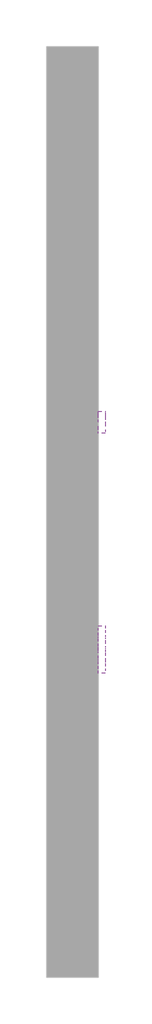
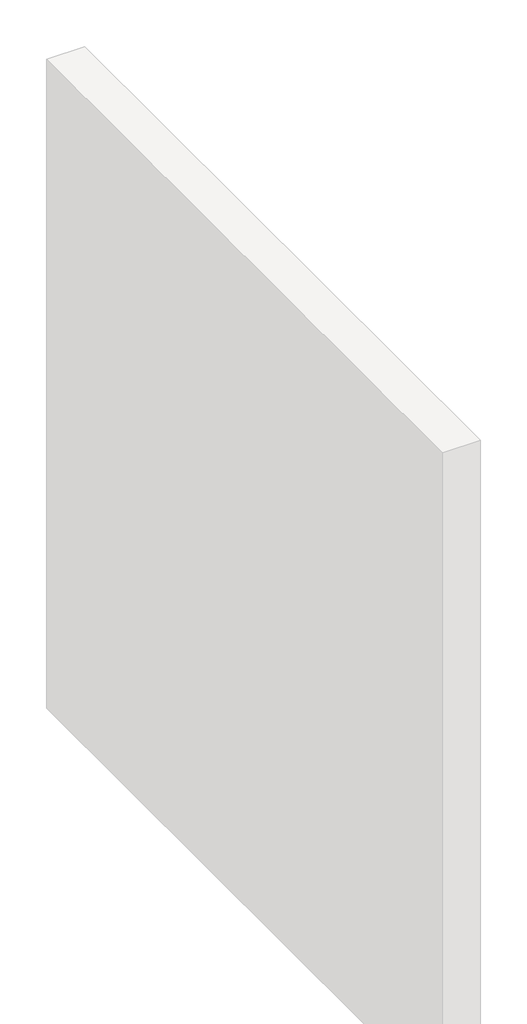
# One storey, part 5 of 12: 2 proxies.
"""IFC4 building model written with IfcOpenShell, lengths in millimetres."""

from ifc_helpers import new_model, si_unit, frame, origin, place, context, project, spatial, polyline, outline, extrude, element, save

model = new_model("IFC4")

# Units and contexts
model_context = context("Model", 3, world=origin())
ifc_project = project(units=[si_unit("LENGTHUNIT", "METRE", prefix="MILLI")], contexts=[model_context])

# Site, building, storey
site = spatial("IfcSite", under=ifc_project)
building = spatial("IfcBuilding", under=site)
storey = spatial("IfcBuildingStorey", under=building, Name="PORTOBELLO - SHOWROOM", Elevation=0.0)

# Proxies
placement = place(None, origin())
element("IfcBuildingElementProxy", 1, Name="10mm Arial", ObjectType="10mm Arial", at=placement, inside=storey, context=model_context, shape_type="SweptSolid", body=[
    extrude(outline(polyline([(1893.8323356, 2517.8467461), (1893.8323356, 2618.3030562), (1915.4392714, 2618.3030562), (1935.9916122, 2547.4980349), (1940.136416, 2532.7091787), (1944.6245764, 2548.7243082), (1964.8335607, 2618.3030562), (1986.4404965, 2618.3030562), (1986.4404965, 2517.8467461), (1973.8834577, 2517.8467461), (1973.8834577, 2605.7460174), (1948.6467529, 2517.8467461), (1931.6260792, 2517.8467461), (1906.3893744, 2605.7460174), (1906.3893744, 2517.8467461), (1893.8323356, 2517.8467461)])), frame((31348.9976597, 0.0, 0.0), z_axis=(1.0, 0.0, 0.0), x_axis=(0.0, 1.0, 0.0)), (0.0, 0.0, 1.0), 20.0),
    extrude(outline(polyline([(2003.7064248, 2554.7330474), (2006.4226202, 2572.5201419), (2014.5712064, 2585.0219984), (2024.6389103, 2591.1472336), (2036.693177, 2593.1889787), (2049.8848123, 2590.7027095), (2060.4215657, 2583.2439021), (2067.3285502, 2571.4011675), (2069.6308784, 2555.763117), (2065.5596509, 2533.4204172), (2053.701588, 2520.7775393), (2036.693177, 2516.2771162), (2023.3421263, 2518.7541883), (2012.8176356, 2526.1854046), (2005.9842275, 2538.2764595), (2003.7064248, 2554.7330474)]), holes=[polyline([(2016.2634636, 2554.7575729), (2017.7165975, 2543.3930849), (2022.0759991, 2535.2966154), (2028.6365614, 2530.4497701), (2036.693177, 2528.834155), (2044.7130045, 2530.4589671), (2051.2613041, 2535.3334036), (2055.6207057, 2543.537172), (2057.0738396, 2555.1499804), (2055.6115087, 2566.1833745), (2051.2245159, 2574.1694795), (2044.6670193, 2579.0163248), (2036.693177, 2580.6319399), (2028.6365614, 2579.0224562), (2022.0759991, 2574.194005), (2017.7165975, 2566.1159295), (2016.2634636, 2554.7575729)])]), frame((31348.9976597, 0.0, 0.0), z_axis=(1.0, 0.0, 0.0), x_axis=(0.0, 1.0, 0.0)), (0.0, 0.0, 1.0), 20.0),
    extrude(outline(polyline([(2079.0486574, 2539.8215639), (2091.6056962, 2541.3911937), (2097.4182317, 2532.0715165), (2110.7355599, 2528.834155), (2123.5378534, 2531.8017364), (2127.7071827, 2538.7669688), (2123.5133279, 2544.4078261), (2110.5884071, 2547.9885442), (2091.6792726, 2554.1321735), (2083.4264532, 2561.3058724), (2080.6182873, 2571.43489), (2082.8746302, 2580.7913554), (2089.0305222, 2587.9405289), (2097.0135615, 2591.656137), (2107.8170295, 2593.1889787), (2123.096395, 2590.7241693), (2132.8084797, 2584.0532425), (2137.1249617, 2572.7837907), (2124.567923, 2571.2141608), (2119.8467707, 2578.1426051), (2108.7980481, 2580.6319399), (2096.7805696, 2578.2529697), (2093.175326, 2572.7102143), (2094.6713795, 2569.0559198), (2099.3557436, 2566.2845421), (2110.1714742, 2563.6112663), (2128.6023622, 2557.7006289), (2137.1617499, 2551.0051765), (2140.2642214, 2540.091344), (2136.6221897, 2528.0738655), (2126.1130273, 2519.3550622), (2110.5638817, 2516.2771162), (2097.9026097, 2517.7609069), (2088.6626402, 2522.2122791), (2082.4944854, 2529.5821817), (2079.0486574, 2539.8215639)])), frame((31348.9976597, 0.0, 0.0), z_axis=(1.0, 0.0, 0.0), x_axis=(0.0, 1.0, 0.0)), (0.0, 0.0, 1.0), 20.0),
    extrude(outline(polyline([(2242.2901614, 2557.0874922), (2242.2901614, 2569.644531), (2283.1005374, 2569.644531), (2283.1005374, 2532.096042), (2262.9528668, 2520.2502418), (2241.6524993, 2516.2771162), (2227.5656846, 2517.8559431), (2214.8339018, 2522.5924238), (2204.2572945, 2530.3210114), (2196.6360058, 2540.8761589), (2192.0282838, 2553.537431), (2190.4923765, 2567.5843918), (2192.0221525, 2581.7325202), (2196.6114804, 2594.8934986), (2204.0702878, 2605.9330241), (2214.2085025, 2613.716794), (2226.5570748, 2618.333713), (2240.6469552, 2619.872686), (2260.2918537, 2616.3042307), (2274.0629031, 2606.3714168), (2281.6535349, 2589.7554134), (2270.0775148, 2586.4935264), (2264.3508184, 2598.1063347), (2254.5651573, 2604.801787), (2240.4507514, 2607.3156473), (2224.3743083, 2604.6055832), (2213.4359503, 2597.493198), (2206.9734899, 2587.8179015), (2203.0494153, 2568.0994266), (2207.7705675, 2546.2104479), (2221.5048287, 2533.1138489), (2240.6469552, 2528.834155), (2257.8270444, 2532.0592538), (2270.5434987, 2538.9386471), (2270.5434987, 2557.0874922), (2242.2901614, 2557.0874922)])), frame((31348.9976597, 0.0, 0.0), z_axis=(1.0, 0.0, 0.0), x_axis=(0.0, 1.0, 0.0)), (0.0, 0.0, 1.0), 20.0),
    extrude(outline(polyline([(2349.024991, 2527.2645251), (2336.8480969, 2518.7541883), (2323.3958786, 2516.2771162), (2312.9020447, 2517.7670383), (2305.1611944, 2522.2368045), (2300.3879255, 2529.0242273), (2298.7968359, 2537.4671191), (2301.2003316, 2547.399933), (2307.5156392, 2554.6104201), (2316.3080189, 2558.7306984), (2327.1728004, 2560.6191594), (2348.9514146, 2564.9356414), (2349.024991, 2567.7315446), (2345.5669002, 2577.0021709), (2331.6854862, 2580.6319399), (2318.9812947, 2578.2161815), (2312.9235045, 2569.644531), (2300.3664657, 2571.2141608), (2305.7988565, 2583.476894), (2316.7372145, 2590.6628556), (2333.304167, 2593.1889787), (2348.5222189, 2590.9571612), (2357.1183948, 2585.3530922), (2360.9688931, 2576.8304926), (2361.5820297, 2565.8430837), (2361.5820297, 2550.2203616), (2362.2196918, 2528.4049593), (2364.7212894, 2517.8467461), (2352.1642506, 2517.8467461), (2349.024991, 2527.2645251)]), holes=[polyline([(2349.024991, 2552.3786027), (2328.7669558, 2548.5281044), (2317.9634878, 2546.4924907), (2313.0706573, 2543.1815528), (2311.3538746, 2538.3500359), (2315.0940083, 2531.5564817), (2326.0691545, 2528.834155), (2338.773346, 2531.8385246), (2346.9648518, 2539.1103254), (2348.9514146, 2548.82241), (2349.024991, 2552.3786027)])]), frame((31348.9976597, 0.0, 0.0), z_axis=(1.0, 0.0, 0.0), x_axis=(0.0, 1.0, 0.0)), (0.0, 0.0, 1.0), 20.0),
    extrude(outline(polyline([(2378.847958, 2517.8467461), (2378.847958, 2591.6193488), (2389.835367, 2591.6193488), (2389.835367, 2580.7055163), (2397.6344653, 2590.7609575), (2405.4826145, 2593.1889787), (2418.0887042, 2589.313955), (2413.8948494, 2578.0567659), (2405.0656816, 2580.6319399), (2397.965559, 2578.1548678), (2393.4406105, 2571.2877372), (2391.4049968, 2556.6215083), (2391.4049968, 2517.8467461), (2378.847958, 2517.8467461)])), frame((31348.9976597, 0.0, 0.0), z_axis=(1.0, 0.0, 0.0), x_axis=(0.0, 1.0, 0.0)), (0.0, 0.0, 1.0), 20.0),
    extrude(outline(polyline([(2452.6205608, 2528.3191202), (2454.1901906, 2517.4788641), (2444.796937, 2516.2771162), (2434.275512, 2518.3617808), (2429.0270622, 2523.8309598), (2427.5064833, 2538.0802558), (2427.5064833, 2579.06231), (2418.0887042, 2579.06231), (2418.0887042, 2589.313955), (2418.0887042, 2591.6193488), (2427.5064833, 2591.6193488), (2427.5064833, 2609.5474647), (2440.063522, 2616.9296301), (2440.063522, 2591.6193488), (2452.6205608, 2591.6193488), (2452.6205608, 2579.06231), (2440.063522, 2579.06231), (2440.063522, 2538.4481378), (2440.7257096, 2531.9734147), (2442.8716879, 2529.6802836), (2447.1513818, 2528.834155), (2452.6205608, 2528.3191202)])), frame((31348.9976597, 0.0, 0.0), z_axis=(1.0, 0.0, 0.0), x_axis=(0.0, 1.0, 0.0)), (0.0, 0.0, 1.0), 20.0),
    extrude(outline(polyline([(2516.8282317, 2539.8215639), (2529.1400158, 2538.2519341), (2524.7039721, 2528.9751764), (2517.6253093, 2522.0406008), (2508.0634432, 2517.7179874), (2496.177789, 2516.2771162), (2481.4441151, 2518.7633854), (2470.1072183, 2526.2221928), (2462.8783371, 2538.1691606), (2460.46871, 2554.1199108), (2462.9028626, 2570.6071555), (2470.2053202, 2582.9373337), (2481.3889328, 2590.6260674), (2495.4665505, 2593.1889787), (2509.1057755, 2590.6321988), (2520.0042796, 2582.9618592), (2527.1503873, 2570.6562065), (2529.5324233, 2554.1934872), (2529.4588469, 2550.8089728), (2473.0257488, 2550.8089728), (2475.1993183, 2541.4095878), (2480.2484986, 2534.4995377), (2487.5356278, 2530.2505007), (2496.4230437, 2528.834155), (2508.7348278, 2531.4583799), (2516.8282317, 2539.8215639)]), holes=[polyline([(2473.0257488, 2563.3660116), (2516.9753845, 2563.3660116), (2511.9476639, 2574.745828), (2504.6268122, 2579.1604119), (2495.4174996, 2580.6319399), (2479.954193, 2575.9353131), (2475.0889537, 2570.4446743), (2473.0257488, 2563.3660116)])]), frame((31348.9976597, 0.0, 0.0), z_axis=(1.0, 0.0, 0.0), x_axis=(0.0, 1.0, 0.0)), (0.0, 0.0, 1.0), 20.0),
    extrude(outline(polyline([(2542.089462, 2517.8467461), (2542.089462, 2591.6193488), (2554.6465008, 2591.6193488), (2554.6465008, 2581.318653), (2564.2482209, 2590.2213972), (2577.3570826, 2593.1889787), (2589.2151456, 2590.7977457), (2597.3085495, 2584.5192263), (2601.0732086, 2575.2853882), (2601.7353962, 2563.1452824), (2601.7353962, 2517.8467461), (2589.1783574, 2517.8467461), (2589.1783574, 2561.4530252), (2587.7313549, 2572.5630615), (2582.6177952, 2578.4369107), (2573.9970937, 2580.6319399), (2560.3731972, 2575.7023212), (2556.0781749, 2568.5592791), (2554.6465008, 2556.9893903), (2554.6465008, 2517.8467461), (2542.089462, 2517.8467461)])), frame((31348.9976597, 0.0, 0.0), z_axis=(1.0, 0.0, 0.0), x_axis=(0.0, 1.0, 0.0)), (0.0, 0.0, 1.0), 20.0),
    extrude(outline(polyline([(2677.7888673, 2517.8467461), (2650.3939214, 2618.3030562), (2663.3433676, 2618.3030562), (2679.2358698, 2552.2805008), (2684.1409631, 2531.8998383), (2689.3894129, 2549.926056), (2709.3040916, 2618.3030562), (2727.9679715, 2618.3030562), (2742.4379966, 2568.7370887), (2753.2046763, 2531.8998383), (2757.9626168, 2551.6918896), (2774.0022718, 2618.3030562), (2786.951718, 2618.3030562), (2759.5322466, 2517.8467461), (2746.1168165, 2517.8467461), (2722.0328086, 2595.3472197), (2718.6728197, 2606.1629504), (2714.8958979, 2593.1399277), (2692.9456055, 2517.8467461), (2677.7888673, 2517.8467461)])), frame((31348.9976597, 0.0, 0.0), z_axis=(1.0, 0.0, 0.0), x_axis=(0.0, 1.0, 0.0)), (0.0, 0.0, 1.0), 20.0),
    extrude(outline(polyline([(2849.5897591, 2539.8215639), (2861.9015432, 2538.2519341), (2857.4654994, 2528.9751764), (2850.3868367, 2522.0406008), (2840.8249705, 2517.7179874), (2828.9393164, 2516.2771162), (2814.2056425, 2518.7633854), (2802.8687457, 2526.2221928), (2795.6398645, 2538.1691606), (2793.2302374, 2554.1199108), (2795.6643899, 2570.6071555), (2802.9668475, 2582.9373337), (2814.1504602, 2590.6260674), (2828.2280779, 2593.1889787), (2841.8673028, 2590.6321988), (2852.765807, 2582.9618592), (2859.9119147, 2570.6562065), (2862.2939506, 2554.1934872), (2862.2203742, 2550.8089728), (2805.7872762, 2550.8089728), (2807.9608456, 2541.4095878), (2813.010026, 2534.4995377), (2820.2971552, 2530.2505007), (2829.1845711, 2528.834155), (2841.4963552, 2531.4583799), (2849.5897591, 2539.8215639)]), holes=[polyline([(2805.7872762, 2563.3660116), (2849.7369119, 2563.3660116), (2844.7091913, 2574.745828), (2837.3883396, 2579.1604119), (2828.1790269, 2580.6319399), (2812.7157204, 2575.9353131), (2807.850481, 2570.4446743), (2805.7872762, 2563.3660116)])]), frame((31348.9976597, 0.0, 0.0), z_axis=(1.0, 0.0, 0.0), x_axis=(0.0, 1.0, 0.0)), (0.0, 0.0, 1.0), 20.0),
    extrude(outline(polyline([(31368.9976597, 2887.4080282), (31368.9976597, 2874.8509894), (31348.9976597, 2874.8509894), (31348.9976597, 2887.4080282), (31368.9976597, 2887.4080282)])), frame((0.0, 0.0, 2605.7460174), z_axis=(0.0, 0.0, 1.0), x_axis=(1.0, 0.0, 0.0)), (0.0, 0.0, 1.0), 12.5570388),
    extrude(outline(polyline([(31368.9976597, 2887.4080282), (31368.9976597, 2874.8509894), (31348.9976597, 2874.8509894), (31348.9976597, 2887.4080282), (31368.9976597, 2887.4080282)])), frame((0.0, 0.0, 2517.8467461), z_axis=(0.0, 0.0, 1.0), x_axis=(1.0, 0.0, 0.0)), (0.0, 0.0, 1.0), 73.7726028),
    extrude(outline(polyline([(2901.5346968, 2539.8215639), (2914.0917355, 2541.3911937), (2919.9042711, 2532.0715165), (2933.2215993, 2528.834155), (2946.0238927, 2531.8017364), (2950.193222, 2538.7669688), (2945.9993673, 2544.4078261), (2933.0744465, 2547.9885442), (2914.1653119, 2554.1321735), (2905.9124925, 2561.3058724), (2903.1043266, 2571.43489), (2905.3606695, 2580.7913554), (2911.5165616, 2587.9405289), (2919.4996009, 2591.656137), (2930.3030688, 2593.1889787), (2945.5824343, 2590.7241693), (2955.294519, 2584.0532424), (2959.6110011, 2572.7837907), (2947.0539623, 2571.2141608), (2942.33281, 2578.1426051), (2931.2840875, 2580.6319399), (2919.2666089, 2578.2529697), (2915.6613654, 2572.7102143), (2917.1574188, 2569.0559198), (2921.8417829, 2566.2845421), (2932.6575136, 2563.6112663), (2951.0884015, 2557.7006289), (2959.6477893, 2551.0051765), (2962.7502608, 2540.091344), (2959.108229, 2528.0738655), (2948.5990667, 2519.3550622), (2933.049921, 2516.2771162), (2920.388649, 2517.7609069), (2911.1486796, 2522.2122791), (2904.9805248, 2529.5821817), (2901.5346968, 2539.8215639)])), frame((31348.9976597, 0.0, 0.0), z_axis=(1.0, 0.0, 0.0), x_axis=(0.0, 1.0, 0.0)), (0.0, 0.0, 1.0), 20.0),
    extrude(outline(polyline([(2972.1680399, 2539.8215639), (2984.7250786, 2541.3911937), (2990.5376141, 2532.0715165), (3003.8549424, 2528.834155), (3016.6572358, 2531.8017364), (3020.8265651, 2538.7669688), (3016.6327103, 2544.4078261), (3003.7077896, 2547.9885442), (2984.798655, 2554.1321735), (2976.5458356, 2561.3058724), (2973.7376697, 2571.43489), (2975.9940126, 2580.7913554), (2982.1499047, 2587.9405289), (2990.1329439, 2591.656137), (3000.9364119, 2593.1889787), (3016.2157774, 2590.7241693), (3025.9278621, 2584.0532424), (3030.2443442, 2572.7837907), (3017.6873054, 2571.2141608), (3012.9661531, 2578.1426051), (3001.9174305, 2580.6319399), (2989.899952, 2578.2529697), (2986.2947085, 2572.7102143), (2987.7907619, 2569.0559198), (2992.475126, 2566.2845421), (3003.2908566, 2563.6112663), (3021.7217446, 2557.7006289), (3030.2811324, 2551.0051765), (3033.3836038, 2540.091344), (3029.7415721, 2528.0738655), (3019.2324098, 2519.3550622), (3003.6832641, 2516.2771162), (2991.0219921, 2517.7609069), (2981.7820227, 2522.2122791), (2975.6138679, 2529.5821817), (2972.1680399, 2539.8215639)])), frame((31348.9976597, 0.0, 0.0), z_axis=(1.0, 0.0, 0.0), x_axis=(0.0, 1.0, 0.0)), (0.0, 0.0, 1.0), 20.0),
    extrude(outline(polyline([(3088.3206485, 2517.8467461), (3088.3206485, 2618.3030562), (3109.9275843, 2618.3030562), (3130.4799251, 2547.4980349), (3134.6247289, 2532.7091787), (3139.1128893, 2548.7243082), (3159.3218735, 2618.3030562), (3180.9288094, 2618.3030562), (3180.9288094, 2517.8467461), (3168.3717706, 2517.8467461), (3168.3717706, 2605.7460174), (3143.1350657, 2517.8467461), (3126.1143921, 2517.8467461), (3100.8776872, 2605.7460174), (3100.8776872, 2517.8467461), (3088.3206485, 2517.8467461)])), frame((31348.9976597, 0.0, 0.0), z_axis=(1.0, 0.0, 0.0), x_axis=(0.0, 1.0, 0.0)), (0.0, 0.0, 1.0), 20.0),
    extrude(outline(polyline([(31368.9976597, 3213.8910361), (31368.9976597, 3201.3339974), (31348.9976597, 3201.3339974), (31348.9976597, 3213.8910361), (31368.9976597, 3213.8910361)])), frame((0.0, 0.0, 2517.8467461), z_axis=(0.0, 0.0, 1.0), x_axis=(1.0, 0.0, 0.0)), (0.0, 0.0, 1.0), 73.7726028),
    extrude(outline(polyline([(31368.9976597, 3213.8910361), (31368.9976597, 3201.3339974), (31348.9976597, 3201.3339974), (31348.9976597, 3213.8910361), (31368.9976597, 3213.8910361)])), frame((0.0, 0.0, 2605.7460174), z_axis=(0.0, 0.0, 1.0), x_axis=(1.0, 0.0, 0.0)), (0.0, 0.0, 1.0), 12.5570388),
    extrude(outline(polyline([(3224.8784451, 2517.8467461), (3251.7093053, 2554.9292512), (3226.4480749, 2591.6193488), (3241.5557622, 2591.6193488), (3253.744919, 2573.961013), (3259.4348272, 2565.6223545), (3264.3644459, 2572.4404341), (3278.2458598, 2591.6193488), (3293.3535471, 2591.6193488), (3266.8169925, 2554.9292512), (3292.3725285, 2517.8467461), (3277.2648412, 2517.8467461), (3261.8873738, 2540.140395), (3259.0669452, 2544.2116224), (3239.9861323, 2517.8467461), (3224.8784451, 2517.8467461)])), frame((31348.9976597, 0.0, 0.0), z_axis=(1.0, 0.0, 0.0), x_axis=(0.0, 1.0, 0.0)), (0.0, 0.0, 1.0), 20.0),
])
element("IfcBuildingElementProxy", 2, Name="10mm Arial Narrow", ObjectType="10mm Arial Narrow", at=placement, inside=storey, context=model_context, shape_type="SweptSolid", body=[
    extrude(outline(polyline([(3345.9673947, 2517.8467461), (3345.9673947, 2618.5653498), (3377.2642794, 2618.5653498), (3393.5599809, 2616.6870291), (3405.032967, 2607.2065859), (3409.3226455, 2590.1874771), (3407.5363371, 2578.1116515), (3402.1774119, 2568.4852578), (3392.433623, 2562.1839994), (3377.4927238, 2560.0835799), (3355.7143564, 2560.0835799), (3355.7143564, 2517.8467461), (3345.9673947, 2517.8467461)]), holes=[polyline([(3355.7143564, 2571.4550351), (3378.6857113, 2571.4550351), (3394.5499067, 2575.9858494), (3399.5756838, 2589.6544401), (3397.1008693, 2599.8202165), (3391.1232405, 2605.6201664), (3378.4572669, 2607.1938945), (3355.7143564, 2607.1938945), (3355.7143564, 2571.4550351)])]), frame((31348.9976597, 0.0, 0.0), z_axis=(1.0, 0.0, 0.0), x_axis=(0.0, 1.0, 0.0)), (0.0, 0.0, 1.0), 20.0),
    extrude(outline(polyline([(3417.4451135, 2554.3978523), (3419.3995824, 2570.9886278), (3425.262989, 2582.9407126), (3434.1215557, 2590.1652672), (3445.0615049, 2592.5734521), (3455.8745404, 2590.1652672), (3464.7584899, 2582.9407126), (3470.6980446, 2571.1789981), (3472.6778962, 2555.1593336), (3470.7329459, 2537.997447), (3464.8980948, 2525.8549919), (3456.0490466, 2518.6304373), (3445.0615049, 2516.2222524), (3434.2008767, 2518.636783), (3425.3264458, 2525.8803746), (3419.4154466, 2537.8388051), (3417.4451135, 2554.3978523)]), holes=[polyline([(3427.1920752, 2554.423235), (3428.496112, 2541.8714836), (3432.4082226, 2533.0002255), (3438.2494194, 2527.7269669), (3445.3407147, 2525.9692141), (3452.0607879, 2527.7428311), (3457.7528612, 2533.0636823), (3461.6364162, 2541.9508045), (3462.9309346, 2554.423235), (3461.6268977, 2566.9369123), (3457.7147871, 2575.795479), (3451.8735904, 2581.0687376), (3444.782295, 2582.8264904), (3438.0146293, 2581.059219), (3432.3320745, 2575.7574049), (3428.477075, 2566.8893197), (3427.1920752, 2554.423235)])]), frame((31348.9976597, 0.0, 0.0), z_axis=(1.0, 0.0, 0.0), x_axis=(0.0, 1.0, 0.0)), (0.0, 0.0, 1.0), 20.0),
    extrude(outline(polyline([(3544.155615, 2525.9692141), (3545.7801086, 2516.2222524), (3538.4191219, 2516.2222524), (3530.1443576, 2518.3417089), (3525.8292965, 2524.1416588), (3524.6616917, 2538.787484), (3524.6616917, 2581.2019968), (3516.5392236, 2581.2019968), (3516.5392236, 2584.450984), (3514.91473, 2579.5775032), (3507.3506817, 2581.2019968), (3501.271522, 2578.8794786), (3497.4006583, 2572.3941955), (3495.4208067, 2556.9868889), (3495.4208067, 2517.8467461), (3485.6738451, 2517.8467461), (3485.6738451, 2590.9489585), (3495.4208067, 2590.9489585), (3495.4208067, 2581.2527622), (3501.664954, 2590.3397733), (3508.0613976, 2592.5734521), (3516.5392236, 2590.9489585), (3524.6616917, 2590.9489585), (3524.6616917, 2607.1938945), (3534.4086533, 2615.3163626), (3534.4086533, 2590.9489585), (3544.155615, 2590.9489585), (3544.155615, 2581.2019968), (3534.4086533, 2581.2019968), (3534.4086533, 2536.5538053), (3535.2716656, 2528.5582508), (3539.8913193, 2525.9692141), (3544.155615, 2525.9692141)])), frame((31348.9976597, 0.0, 0.0), z_axis=(1.0, 0.0, 0.0), x_axis=(0.0, 1.0, 0.0)), (0.0, 0.0, 1.0), 20.0),
    extrude(outline(polyline([(3550.6535894, 2554.3978523), (3552.6080583, 2570.9886278), (3558.4714649, 2582.9407126), (3567.3300316, 2590.1652672), (3578.2699808, 2592.5734521), (3589.0830164, 2590.1652672), (3597.9669658, 2582.9407126), (3603.9065206, 2571.1789981), (3605.8863721, 2555.1593336), (3603.9414218, 2537.997447), (3598.1065707, 2525.8549919), (3589.2575225, 2518.6304373), (3578.2699808, 2516.2222524), (3567.4093526, 2518.636783), (3558.5349217, 2525.8803746), (3552.6239225, 2537.8388051), (3550.6535894, 2554.3978523)]), holes=[polyline([(3560.4005511, 2554.423235), (3561.704588, 2541.8714836), (3565.6166985, 2533.0002255), (3571.4578953, 2527.7269669), (3578.5491906, 2525.9692141), (3585.2692638, 2527.7428311), (3590.9613371, 2533.0636823), (3594.8448921, 2541.9508045), (3596.1394105, 2554.423235), (3594.8353736, 2566.9369123), (3590.923263, 2575.795479), (3585.0820663, 2581.0687376), (3577.9907709, 2582.8264904), (3571.2231052, 2581.059219), (3565.5405504, 2575.7574049), (3561.6855509, 2566.8893197), (3560.4005511, 2554.423235)])]), frame((31348.9976597, 0.0, 0.0), z_axis=(1.0, 0.0, 0.0), x_axis=(0.0, 1.0, 0.0)), (0.0, 0.0, 1.0), 20.0),
    extrude(outline(polyline([(3628.6292827, 2517.8467461), (3618.882321, 2517.8467461), (3618.882321, 2618.5653498), (3628.6292827, 2618.5653498), (3628.6292827, 2583.1564657), (3636.0283434, 2590.2382425), (3645.2295767, 2592.5734521), (3658.1113034, 2588.3726131), (3667.3886849, 2575.6431827), (3670.8661165, 2554.9562719), (3668.9338575, 2538.5019285), (3663.1370805, 2526.2991894), (3654.7639582, 2518.7414867), (3645.1026632, 2516.2222524), (3635.7618249, 2518.8366718), (3628.6292827, 2526.6037819), (3628.6292827, 2517.8467461)]), holes=[polyline([(3628.6292827, 2554.9562719), (3630.7106651, 2537.7087187), (3636.5994544, 2528.9770655), (3645.0518977, 2525.9692141), (3650.9946253, 2527.7586953), (3656.2329827, 2533.1271391), (3661.1191548, 2554.5501485), (3656.4106616, 2575.9858494), (3651.1659586, 2581.1163301), (3644.848836, 2582.8264904), (3638.8712072, 2581.0370092), (3633.5789116, 2575.6685654), (3628.6292827, 2554.9562719)])]), frame((31348.9976597, 0.0, 0.0), z_axis=(1.0, 0.0, 0.0), x_axis=(0.0, 1.0, 0.0)), (0.0, 0.0, 1.0), 20.0),
    extrude(outline(polyline([(3722.849912, 2540.5896566), (3732.5968736, 2538.965163), (3728.8973433, 2529.0785964), (3723.0783564, 2521.9587455), (3715.3747031, 2517.6563757), (3706.0211735, 2516.2222524), (3694.4276195, 2518.636783), (3685.2834973, 2525.8803746), (3679.3439425, 2537.6865088), (3677.3640909, 2553.7886671), (3679.353461, 2570.4555908), (3685.3215713, 2582.6361201), (3694.3356072, 2590.0891191), (3705.4627538, 2592.5734521), (3716.145703, 2590.1747857), (3724.8932203, 2582.9787867), (3730.7280714, 2571.2392821), (3732.6730218, 2555.2100991), (3732.5968736, 2551.9611118), (3687.1110526, 2551.9611118), (3693.1140641, 2532.517954), (3699.0441004, 2527.6063991), (3706.1480871, 2525.9692141), (3716.3265548, 2529.6243247), (3722.849912, 2540.5896566)]), holes=[polyline([(3687.7710031, 2561.7080735), (3722.849912, 2561.7080735), (3718.5856163, 2575.973158), (3712.7602837, 2581.1131573), (3705.538902, 2582.8264904), (3693.3298172, 2577.1153801), (3687.7710031, 2561.7080735)])]), frame((31348.9976597, 0.0, 0.0), z_axis=(1.0, 0.0, 0.0), x_axis=(0.0, 1.0, 0.0)), (0.0, 0.0, 1.0), 20.0),
    extrude(outline(polyline([(31368.9976597, 3755.3397842), (31368.9976597, 3745.5928225), (31348.9976597, 3745.5928225), (31348.9976597, 3755.3397842), (31368.9976597, 3755.3397842)])), frame((0.0, 0.0, 2517.8467461), z_axis=(0.0, 0.0, 1.0), x_axis=(1.0, 0.0, 0.0)), (0.0, 0.0, 1.0), 100.7186038),
    extrude(outline(polyline([(31368.9976597, 3781.3316819), (31368.9976597, 3771.5847202), (31348.9976597, 3771.5847202), (31348.9976597, 3781.3316819), (31368.9976597, 3781.3316819)])), frame((0.0, 0.0, 2517.8467461), z_axis=(0.0, 0.0, 1.0), x_axis=(1.0, 0.0, 0.0)), (0.0, 0.0, 1.0), 100.7186038),
    extrude(outline(polyline([(3792.7031372, 2554.3978523), (3794.657606, 2570.9886278), (3800.5210127, 2582.9407126), (3809.3795794, 2590.1652672), (3820.3195285, 2592.5734521), (3831.1325641, 2590.1652672), (3840.0165135, 2582.9407126), (3845.9560683, 2571.1789981), (3847.9359199, 2555.1593336), (3845.9909695, 2537.997447), (3840.1561184, 2525.8549919), (3831.3070702, 2518.6304373), (3820.3195285, 2516.2222524), (3809.4589003, 2518.636783), (3800.5844694, 2525.8803746), (3794.6734702, 2537.8388051), (3792.7031372, 2554.3978523)]), holes=[polyline([(3802.4500988, 2554.423235), (3803.7541357, 2541.8714836), (3807.6662463, 2533.0002255), (3813.507443, 2527.7269669), (3820.5987384, 2525.9692141), (3827.3188115, 2527.7428311), (3833.0108848, 2533.0636823), (3836.8944399, 2541.9508045), (3838.1889582, 2554.423235), (3836.8849214, 2566.9369123), (3832.9728108, 2575.795479), (3827.131614, 2581.0687376), (3820.0403187, 2582.8264904), (3813.2726529, 2581.059219), (3807.5900981, 2575.7574049), (3803.7350986, 2566.8893197), (3802.4500988, 2554.423235)])]), frame((31348.9976597, 0.0, 0.0), z_axis=(1.0, 0.0, 0.0), x_axis=(0.0, 1.0, 0.0)), (0.0, 0.0, 1.0), 20.0),
])

save(model, "model.ifc")
